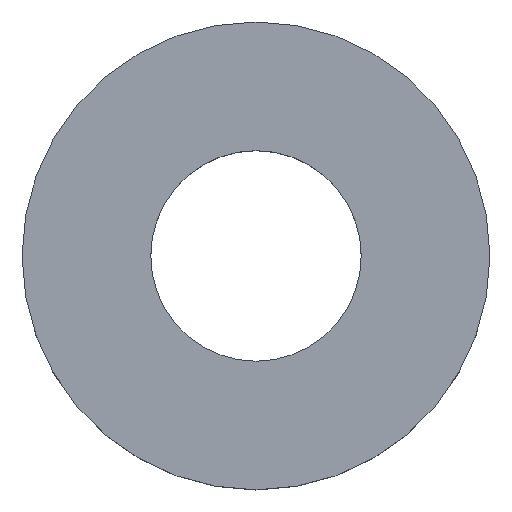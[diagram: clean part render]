
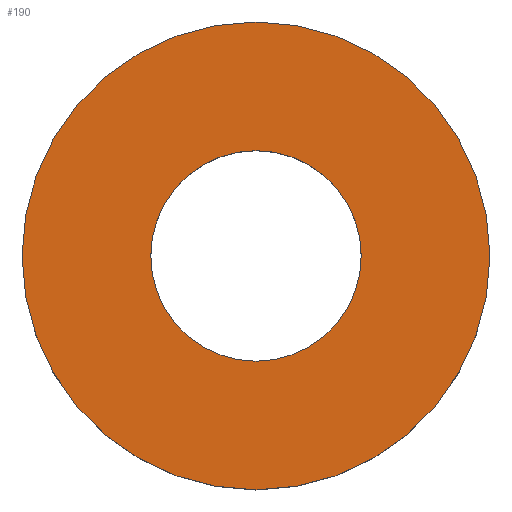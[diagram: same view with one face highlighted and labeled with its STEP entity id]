
A CAD part, top view. The second image highlights one B-rep face of the part: STEP entity #190.
In plain terms, the highlighted planar face has unit normal (0, 0, 1).
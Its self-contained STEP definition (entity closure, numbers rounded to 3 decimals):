
#24 = VERTEX_POINT('',#25);
#25 = CARTESIAN_POINT('',(5.,0.,2.));
#32 = CYLINDRICAL_SURFACE('',#33,5.);
#33 = AXIS2_PLACEMENT_3D('',#34,#35,#36);
#34 = CARTESIAN_POINT('',(0.,0.,0.));
#35 = DIRECTION('',(-0.,-0.,-1.));
#36 = DIRECTION('',(1.,0.,0.));
#51 = EDGE_CURVE('',#24,#24,#52,.T.);
#52 = SURFACE_CURVE('',#53,(#58,#65),.PCURVE_S1.);
#53 = CIRCLE('',#54,5.);
#54 = AXIS2_PLACEMENT_3D('',#55,#56,#57);
#55 = CARTESIAN_POINT('',(0.,0.,2.));
#56 = DIRECTION('',(0.,0.,1.));
#57 = DIRECTION('',(1.,0.,0.));
#58 = PCURVE('',#32,#59);
#59 = DEFINITIONAL_REPRESENTATION('',(#60),#64);
#60 = LINE('',#61,#62);
#61 = CARTESIAN_POINT('',(-0.,-2.));
#62 = VECTOR('',#63,1.);
#63 = DIRECTION('',(-1.,0.));
#64 = ( GEOMETRIC_REPRESENTATION_CONTEXT(2) 
PARAMETRIC_REPRESENTATION_CONTEXT() REPRESENTATION_CONTEXT('2D SPACE',''
  ) );
#65 = PCURVE('',#66,#71);
#66 = PLANE('',#67);
#67 = AXIS2_PLACEMENT_3D('',#68,#69,#70);
#68 = CARTESIAN_POINT('',(0.,0.,2.));
#69 = DIRECTION('',(0.,0.,1.));
#70 = DIRECTION('',(1.,0.,-0.));
#71 = DEFINITIONAL_REPRESENTATION('',(#72),#76);
#72 = CIRCLE('',#73,5.);
#73 = AXIS2_PLACEMENT_2D('',#74,#75);
#74 = CARTESIAN_POINT('',(0.,0.));
#75 = DIRECTION('',(1.,0.));
#76 = ( GEOMETRIC_REPRESENTATION_CONTEXT(2) 
PARAMETRIC_REPRESENTATION_CONTEXT() REPRESENTATION_CONTEXT('2D SPACE',''
  ) );
#112 = VERTEX_POINT('',#113);
#113 = CARTESIAN_POINT('',(2.25,0.,2.));
#120 = CYLINDRICAL_SURFACE('',#121,2.25);
#121 = AXIS2_PLACEMENT_3D('',#122,#123,#124);
#122 = CARTESIAN_POINT('',(0.,0.,0.));
#123 = DIRECTION('',(-0.,-0.,-1.));
#124 = DIRECTION('',(1.,0.,0.));
#139 = EDGE_CURVE('',#112,#112,#140,.T.);
#140 = SURFACE_CURVE('',#141,(#146,#153),.PCURVE_S1.);
#141 = CIRCLE('',#142,2.25);
#142 = AXIS2_PLACEMENT_3D('',#143,#144,#145);
#143 = CARTESIAN_POINT('',(0.,0.,2.));
#144 = DIRECTION('',(0.,0.,1.));
#145 = DIRECTION('',(1.,0.,0.));
#146 = PCURVE('',#120,#147);
#147 = DEFINITIONAL_REPRESENTATION('',(#148),#152);
#148 = LINE('',#149,#150);
#149 = CARTESIAN_POINT('',(-0.,-2.));
#150 = VECTOR('',#151,1.);
#151 = DIRECTION('',(-1.,0.));
#152 = ( GEOMETRIC_REPRESENTATION_CONTEXT(2) 
PARAMETRIC_REPRESENTATION_CONTEXT() REPRESENTATION_CONTEXT('2D SPACE',''
  ) );
#153 = PCURVE('',#66,#154);
#154 = DEFINITIONAL_REPRESENTATION('',(#155),#159);
#155 = CIRCLE('',#156,2.25);
#156 = AXIS2_PLACEMENT_2D('',#157,#158);
#157 = CARTESIAN_POINT('',(0.,0.));
#158 = DIRECTION('',(1.,0.));
#159 = ( GEOMETRIC_REPRESENTATION_CONTEXT(2) 
PARAMETRIC_REPRESENTATION_CONTEXT() REPRESENTATION_CONTEXT('2D SPACE',''
  ) );
#190 = ADVANCED_FACE('',(#191,#194),#66,.T.);
#191 = FACE_BOUND('',#192,.T.);
#192 = EDGE_LOOP('',(#193));
#193 = ORIENTED_EDGE('',*,*,#51,.T.);
#194 = FACE_BOUND('',#195,.T.);
#195 = EDGE_LOOP('',(#196));
#196 = ORIENTED_EDGE('',*,*,#139,.F.);
